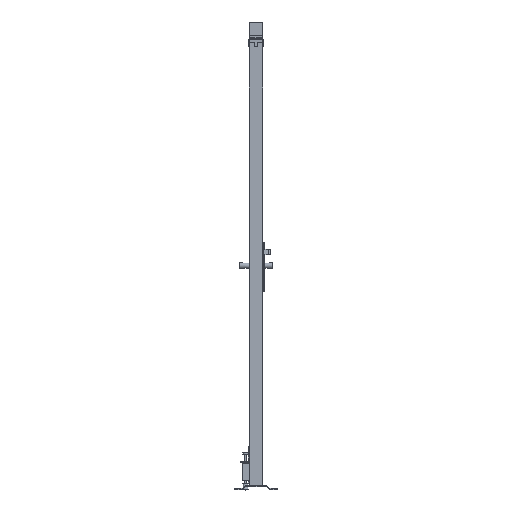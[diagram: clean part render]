
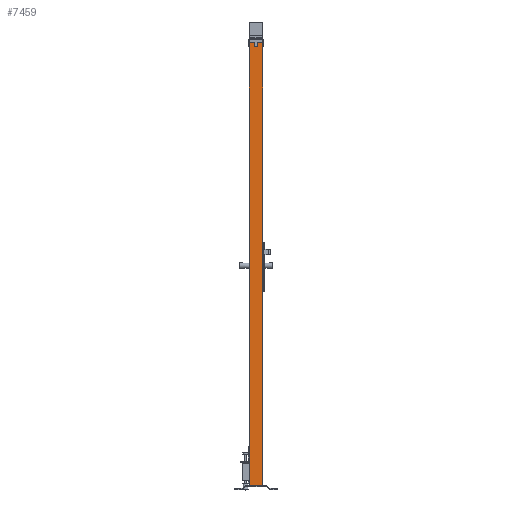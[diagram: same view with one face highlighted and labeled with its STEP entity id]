
A CAD part, left-side view. The second image highlights one B-rep face of the part: STEP entity #7459.
In plain terms, the highlighted planar face has unit normal (-1, 0, 0).
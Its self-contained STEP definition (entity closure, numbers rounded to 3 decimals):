
#920=FACE_OUTER_BOUND('',#1317,.T.);
#1317=EDGE_LOOP('',(#5571,#5572,#5573,#5574));
#1876=LINE('',#10996,#2751);
#1880=LINE('',#11005,#2755);
#1882=LINE('',#11008,#2757);
#1884=LINE('',#11011,#2759);
#2751=VECTOR('',#8826,1.);
#2755=VECTOR('',#8832,1.);
#2757=VECTOR('',#8836,1.);
#2759=VECTOR('',#8840,1.);
#3560=VERTEX_POINT('',#10993);
#3561=VERTEX_POINT('',#10995);
#3564=VERTEX_POINT('',#11002);
#3565=VERTEX_POINT('',#11004);
#4340=EDGE_CURVE('',#3560,#3561,#1876,.T.);
#4344=EDGE_CURVE('',#3564,#3565,#1880,.T.);
#4346=EDGE_CURVE('',#3561,#3564,#1882,.T.);
#4348=EDGE_CURVE('',#3560,#3565,#1884,.T.);
#5571=ORIENTED_EDGE('',*,*,#4348,.T.);
#5572=ORIENTED_EDGE('',*,*,#4344,.F.);
#5573=ORIENTED_EDGE('',*,*,#4346,.F.);
#5574=ORIENTED_EDGE('',*,*,#4340,.F.);
#7141=PLANE('',#7913);
#7459=ADVANCED_FACE('',(#920),#7141,.F.);
#7913=AXIS2_PLACEMENT_3D('',#11010,#8838,#8839);
#8826=DIRECTION('',(0.,-1.,0.));
#8832=DIRECTION('',(0.,1.,0.));
#8836=DIRECTION('',(0.,0.,-1.));
#8838=DIRECTION('center_axis',(1.,0.,0.));
#8839=DIRECTION('ref_axis',(0.,0.,-1.));
#8840=DIRECTION('',(0.,0.,-1.));
#10993=CARTESIAN_POINT('',(-30.,30.,2020.));
#10995=CARTESIAN_POINT('',(-30.,-30.,2020.));
#10996=CARTESIAN_POINT('',(-30.,0.,2020.));
#11002=CARTESIAN_POINT('',(-30.,-30.,20.));
#11004=CARTESIAN_POINT('',(-30.,30.,20.));
#11005=CARTESIAN_POINT('',(-30.,0.,20.));
#11008=CARTESIAN_POINT('',(-30.,-30.,1020.));
#11010=CARTESIAN_POINT('Origin',(-30.,0.,
1020.));
#11011=CARTESIAN_POINT('',(-30.,30.,1020.));
